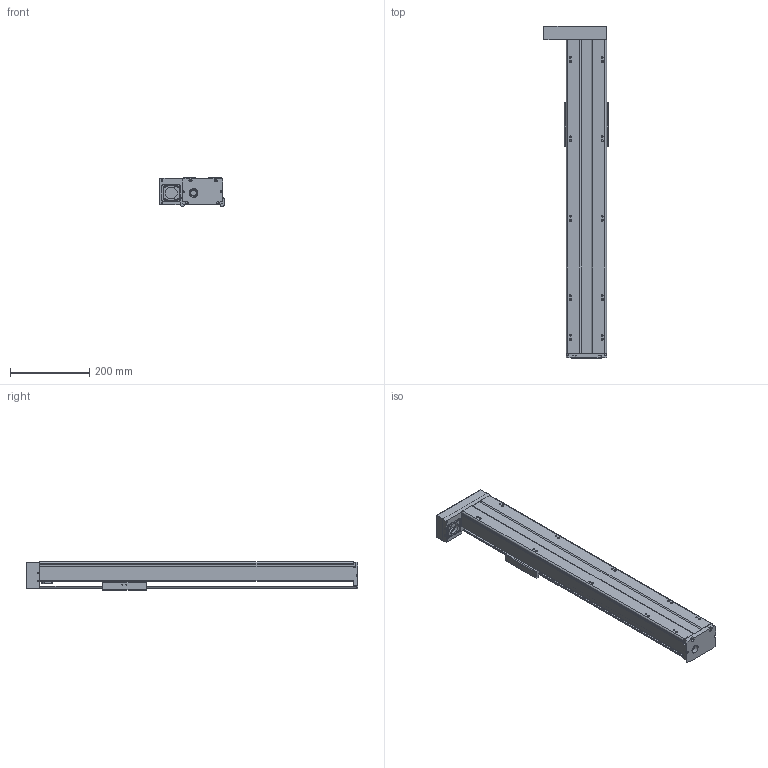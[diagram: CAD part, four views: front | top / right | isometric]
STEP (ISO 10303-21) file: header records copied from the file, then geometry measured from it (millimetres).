
FILE_DESCRIPTION(/* description */ (''),/* implementation_level */ '2;1');
FILE_NAME(/* name */ 'TKA100-FL-600_asm1.stp',/* time_stamp */ '2016-05-17T14:51:57+08:00',/* author */ (''),/* organization */ (''),/* preprocessor_version */ 'ST-DEVELOPER v15',/* originating_system */ 'SIEMENS PLM Software NX 8.5',/* authorisation */ '');
FILE_SCHEMA (('AUTOMOTIVE_DESIGN { 1 0 10303 214 3 1 1 1 }'));
Length unit declared in the file: millimetre
Products named in the file (3): 200-2; 200-1; TKA100-FL-600_asm1
Assembly tree (2 placements, depth 2):
  TKA100-FL-600_asm1
    200-1
    200-2
Bounding box: 162 x 836 x 71 mm (x, y, z)
Volume: 1838523.8 mm3; surface area: 627156.8 mm2
Topology: 2 solids, 16 shells, 792 faces, 2062 edges, 1340 vertices
Faces by surface type: plane 317, cylinder 300, cone 121, torus 28, bspline 26
Full cylindrical faces by diameter (mm): 2.5 x6, 2.6 x8, 3.3 x11, 3.4 x4, 3.8 x8, 4.2 x19, 4.3 x4, 4.5 x10, 5 x2, 5.5 x18, 6.6 x4, 8 x4, 9 x6, 10 x6, 11 x4, 12 x6, 15.3 x1, 16 x1, 22 x1, 24 x1, 28 x2, 30 x1, 33 x1
Entity records: 29172 total; most frequent: CARTESIAN_POINT 10722, DIRECTION 3777, ORIENTED_EDGE 3592, EDGE_CURVE 1796, AXIS2_PLACEMENT_3D 1487, VERTEX_POINT 1272, EDGE_LOOP 1093, LINE 803
